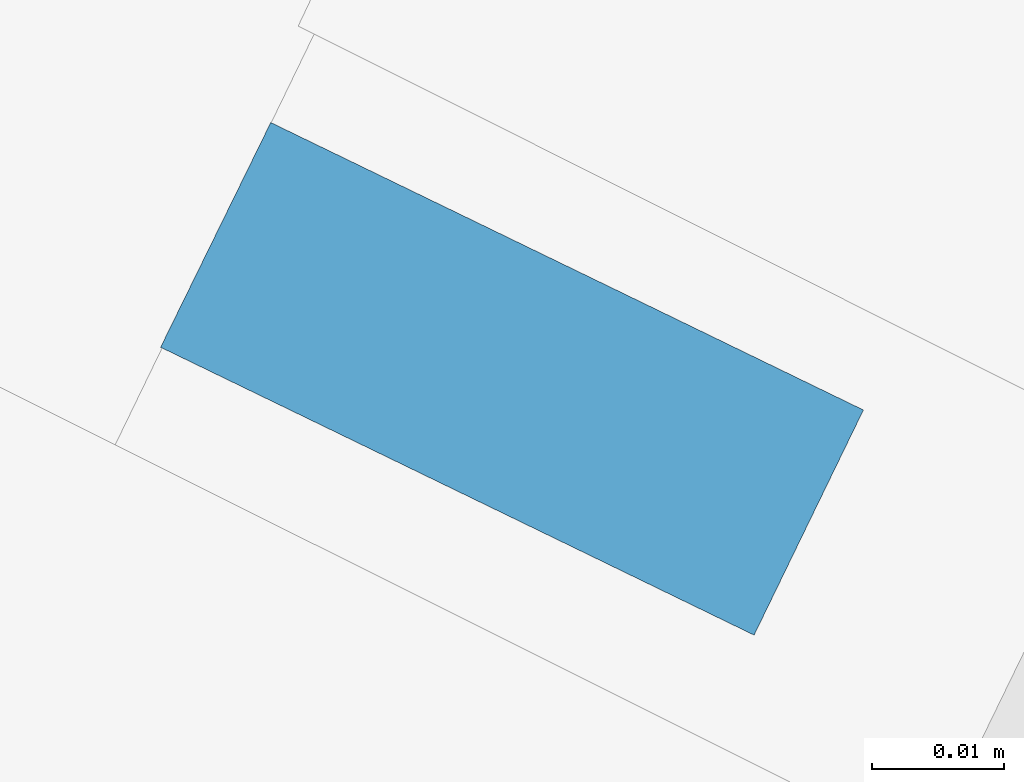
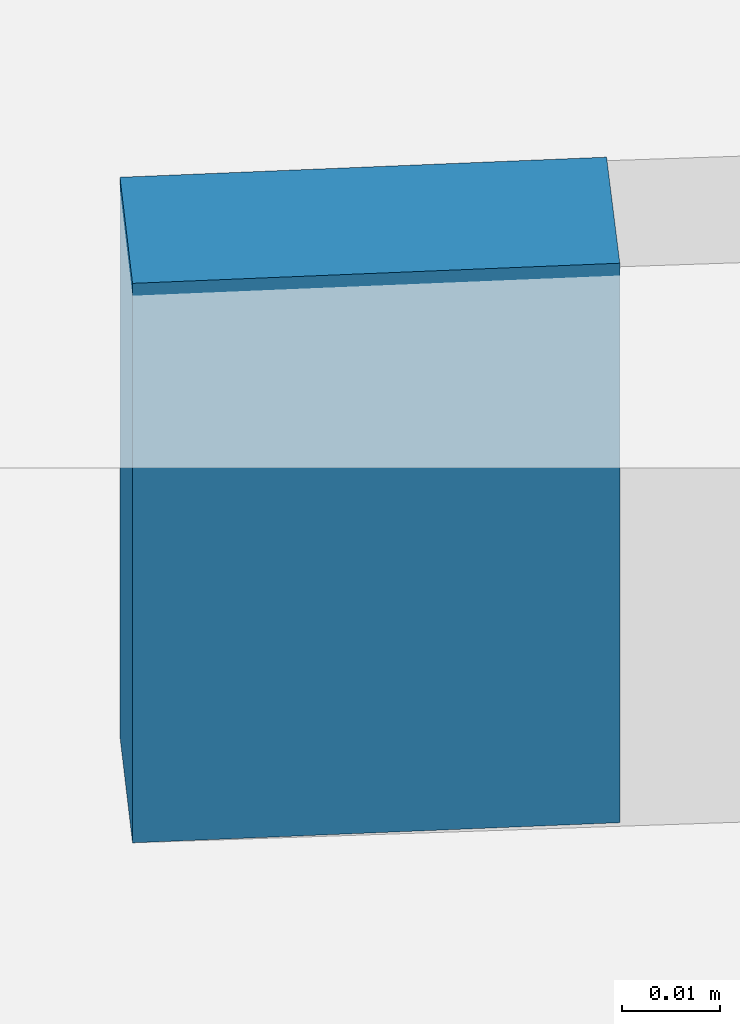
# One storey, part 3 of 16: 1 slab.
"""IFC2X3 building model written with IfcOpenShell, lengths in millimetres."""

from ifc_helpers import new_model, entity, si_unit, converted_unit, derived_unit, direction, frame, frame_2d, origin_with_axes, place, context, subcontext, project, spatial, polyline, circle_curve, parameter, trimmed, segment, composite_curve, outline, extrude, material, layer, layer_set, layer_usage, type_object, element, save


model = new_model("IFC2X3")

# Units and contexts
model_context = context("Model", 3, precision=0.01, world=frame((0.0, 4.29681676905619e-09, 0.0)), true_north=direction((4.01073788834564e-13, 1.0)))
plan_context = context("Plan", 3, precision=0.01, world=frame((0.0, 4.29681676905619e-09, 0.0)), true_north=direction((4.01073788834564e-13, 1.0)))
body_context = subcontext(model_context, "Body", "Model", "MODEL_VIEW")
ifc_project = project(units=[converted_unit("PLANEANGLEUNIT", "DEGREE", entity("IfcPositiveLengthMeasure", 0.0174532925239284), si_unit("PLANEANGLEUNIT", "RADIAN"), dimensions=[0, 0, 0, 0, 0, 0, 0]), si_unit("AREAUNIT", "SQUARE_METRE"), si_unit("LENGTHUNIT", "METRE", prefix="MILLI"), si_unit("MASSUNIT", "GRAM", prefix="KILO"), si_unit("POWERUNIT", "WATT"), si_unit("PRESSUREUNIT", "PASCAL"), si_unit("FORCEUNIT", "NEWTON", prefix="KILO"), si_unit("ELECTRICCURRENTUNIT", "AMPERE"), si_unit("THERMODYNAMICTEMPERATUREUNIT", "DEGREE_CELSIUS"), si_unit("TIMEUNIT", "SECOND"), si_unit("VOLUMEUNIT", "CUBIC_METRE"), derived_unit("LINEARVELOCITYUNIT", [(si_unit("LENGTHUNIT", "METRE"), 1), (si_unit("TIMEUNIT", "SECOND"), -1)]), derived_unit("VOLUMETRICFLOWRATEUNIT", [(si_unit("VOLUMEUNIT", "CUBIC_METRE"), 1), (si_unit("TIMEUNIT", "SECOND"), -1)]), derived_unit("THERMALTRANSMITTANCEUNIT", [(si_unit("POWERUNIT", "WATT"), 1), (si_unit("THERMODYNAMICTEMPERATUREUNIT", "KELVIN"), -1), (si_unit("AREAUNIT", "SQUARE_METRE"), -1)])], contexts=[model_context, plan_context])

# Site, building, storey
site_placement = place(None, origin_with_axes())
site = spatial("IfcSite", under=ifc_project, at=site_placement, Name="ENGM", CompositionType="ELEMENT")
building_placement = place(site_placement, origin_with_axes())
building = spatial("IfcBuilding", under=site, at=building_placement, Name="TS", CompositionType="ELEMENT")
storey_placement = place(building_placement, frame((0.0, 0.0, 204000.0), z_axis=(0.0, 0.0, 1.0), x_axis=(1.0, 0.0, 0.0)))
storey = spatial("IfcBuildingStorey", under=building, at=storey_placement, Name="Nivå D", CompositionType="ELEMENT", Elevation=204000.0)

# Slab
ifc_material = material(Name="_NSW Gulv (Generell)")
ifc_layer = layer(ifc_material, 70.0)
ifc_layer_set = layer_set([ifc_layer], Name="Floor:A254 - Gulvoppbygging m_f.o - 70 mm")
ifc_layer_usage = layer_usage(ifc_layer_set, "AXIS3", "POSITIVE", 0.0)
slab_type = type_object("IfcSlabType", Name="Floor:A254 - Gulvoppbygging m_f.o - 70 mm", PredefinedType="FLOOR", material=ifc_layer_set)
slab_placement = place(storey_placement, frame((516758.588893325, 401254.749999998, -70.0), z_axis=(0.0, 0.0, 1.0), x_axis=(1.0, 0.0, 0.0)))
element("IfcSlab", 1, at=slab_placement, inside=storey, type_object=slab_type, material=ifc_layer_usage, Name="Floor:A254 - Gulvoppbygging m_f.o - 70 mm", ObjectType="Floor:A254 - Gulvoppbygging m_f.o - 70 mm", PredefinedType="FLOOR", context=body_context, shape_type="SweptSolid", body=[
    extrude(outline(composite_curve([segment(trimmed(circle_curve(frame_2d((28796.0894560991, -38314.066254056), x_axis=(-1.0, 0.0)), 48829.5), [parameter(295.84369064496)], [parameter(295.902441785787)], True, "PARAMETER"), False, "CONTINUOUS"), segment(polyline([(7510.45555333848, 5631.83070581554), (7502.09275996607, 5648.89152809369)]), True, "CONTINUOUS"), segment(trimmed(circle_curve(frame_2d((28796.0894560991, -38314.066254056), x_axis=(-1.0, 0.0)), 48848.5), [parameter(295.843795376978)], [parameter(295.902441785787)], True, "PARAMETER"), True, "CONTINUOUS"), segment(polyline([(7457.10462927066, 5627.07254332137), (7465.40459163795, 5609.98129922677)]), True, "CONTINUOUS")], self_intersect=False)), frame((7510.45555333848, 5648.89152809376, 70.0), z_axis=(0.0, 0.0, -1.0), x_axis=(-1.0, 0.0, 0.0)), (0.0, 0.0, 1.0), 69.9999999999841),
])

save(model, "model.ifc")
